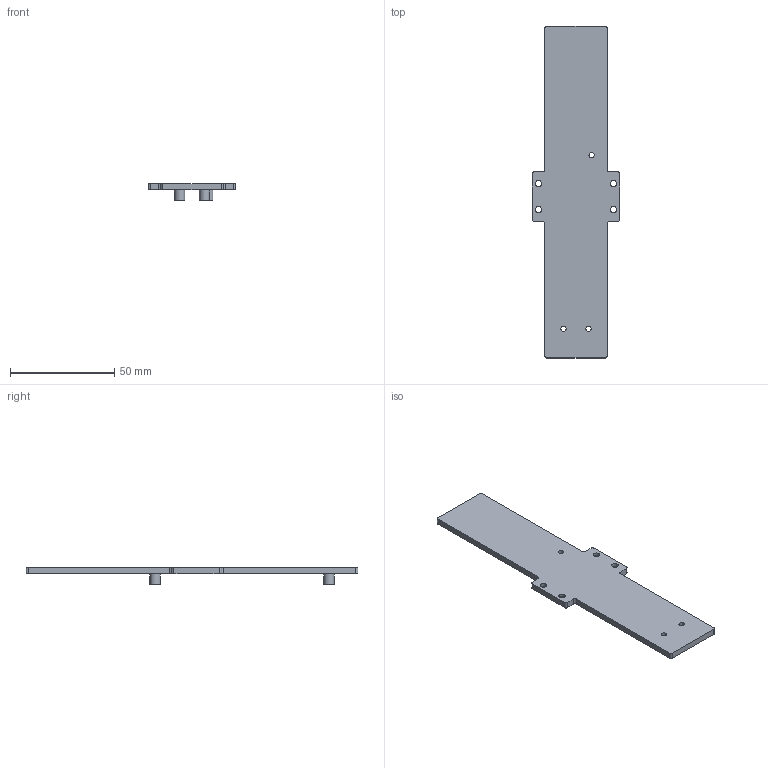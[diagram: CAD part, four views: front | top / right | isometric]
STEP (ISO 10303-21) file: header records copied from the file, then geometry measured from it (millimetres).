
FILE_DESCRIPTION(/* description */ (''),/* implementation_level */ '2;1');
FILE_NAME(/* name */ 'Main Chassis _STIFFNER 2.step',/* time_stamp */ '2026-10-23T15:29:21+05:30',/* author */ (''),/* organization */ (''),/* preprocessor_version */ 'ST-DEVELOPER v20.2',/* originating_system */ 'Autodesk Translation Framework v15.15.0.0',/* authorisation */ '');
FILE_SCHEMA (('AUTOMOTIVE_DESIGN { 1 0 10303 214 3 1 1 }'));
Length unit declared in the file: millimetre
Products named in the file (1): 2026-10-23-15-29-21-301
Bounding box: 42 x 159.5 x 8 mm (x, y, z)
Volume: 15208.4 mm3; surface area: 11742 mm2
Topology: 1 solids, 1 shells, 43 faces, 116 edges, 74 vertices
Faces by surface type: cylinder 22, plane 17, cone 4
Full cylindrical faces by diameter (mm): 2.529 x3, 3 x4, 5 x3
Entity records: 1421 total; most frequent: DIRECTION 254, CARTESIAN_POINT 234, ORIENTED_EDGE 232, EDGE_CURVE 116, AXIS2_PLACEMENT_3D 94, VERTEX_POINT 74, LINE 66, VECTOR 66
